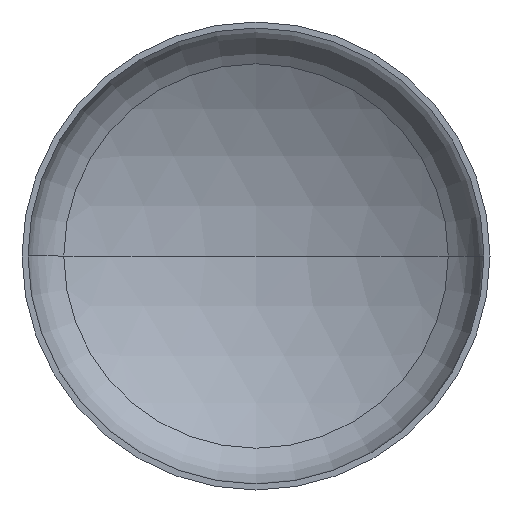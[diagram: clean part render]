
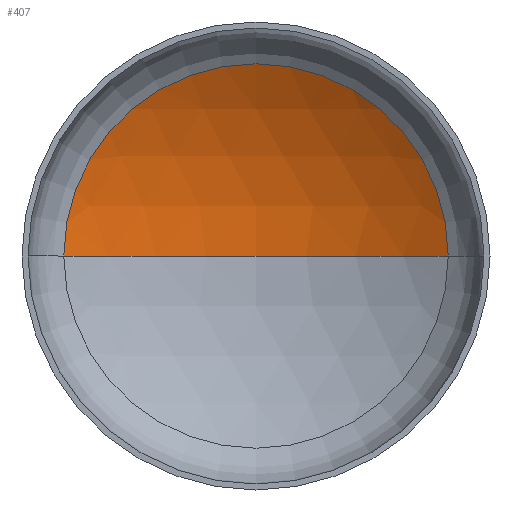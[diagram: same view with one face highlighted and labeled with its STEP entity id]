
A CAD part, front view. The second image highlights one B-rep face of the part: STEP entity #407.
In plain terms, the highlighted spherical face has radius 560 mm.
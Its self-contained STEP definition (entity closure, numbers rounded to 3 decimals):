
#3 = ORIENTED_EDGE ( 'NONE', *, *, #363, .T. ) ;
#30 = VERTEX_POINT ( 'NONE', #282 ) ;
#36 = ORIENTED_EDGE ( 'NONE', *, *, #343, .T. ) ;
#37 = AXIS2_PLACEMENT_3D ( 'NONE', #308, #166, #328 ) ;
#38 = VERTEX_POINT ( 'NONE', #228 ) ;
#51 = ORIENTED_EDGE ( 'NONE', *, *, #347, .F. ) ;
#88 = AXIS2_PLACEMENT_3D ( 'NONE', #124, #305, #162 ) ;
#92 = AXIS2_PLACEMENT_3D ( 'NONE', #348, #213, #374 ) ;
#100 = EDGE_LOOP ( 'NONE', ( #51, #36, #3 ) ) ;
#124 = CARTESIAN_POINT ( 'NONE',  ( 0., -356.185, 0. ) ) ;
#151 = AXIS2_PLACEMENT_3D ( 'NONE', #309, #401, #218 ) ;
#162 = DIRECTION ( 'NONE',  ( -1., 0., 0. ) ) ;
#166 = DIRECTION ( 'NONE',  ( 0., -1., 0. ) ) ;
#197 = CIRCLE ( 'NONE', #37, 287.467 ) ;
#204 = CIRCLE ( 'NONE', #88, 560. ) ;
#213 = DIRECTION ( 'NONE',  ( 0., 0., 1. ) ) ;
#218 = DIRECTION ( 'NONE',  ( -1., 0., 0. ) ) ;
#228 = CARTESIAN_POINT ( 'NONE',  ( 0., 203.815, 0. ) ) ;
#282 = CARTESIAN_POINT ( 'NONE',  ( 287.467, 124.401, 0. ) ) ;
#299 = SPHERICAL_SURFACE ( 'NONE', #151, 560. ) ;
#305 = DIRECTION ( 'NONE',  ( 0., 0., -1. ) ) ;
#308 = CARTESIAN_POINT ( 'NONE',  ( 0., 124.401, 0. ) ) ;
#309 = CARTESIAN_POINT ( 'NONE',  ( 0., -356.185, 0. ) ) ;
#325 = CIRCLE ( 'NONE', #92, 560. ) ;
#328 = DIRECTION ( 'NONE',  ( 1., 0., 0. ) ) ;
#343 = EDGE_CURVE ( 'NONE', #38, #30, #204, .T. ) ;
#347 = EDGE_CURVE ( 'NONE', #38, #381, #325, .T. ) ;
#348 = CARTESIAN_POINT ( 'NONE',  ( 0., -356.185, 0. ) ) ;
#358 = FACE_OUTER_BOUND ( 'NONE', #100, .T. ) ;
#363 = EDGE_CURVE ( 'NONE', #30, #381, #197, .T. ) ;
#374 = DIRECTION ( 'NONE',  ( 1., 0., 0. ) ) ;
#378 = CARTESIAN_POINT ( 'NONE',  ( -287.467, 124.401, 0. ) ) ;
#381 = VERTEX_POINT ( 'NONE', #378 ) ;
#401 = DIRECTION ( 'NONE',  ( 0., 0., -1. ) ) ;
#407 = ADVANCED_FACE ( 'NONE', ( #358 ), #299, .F. ) ;
